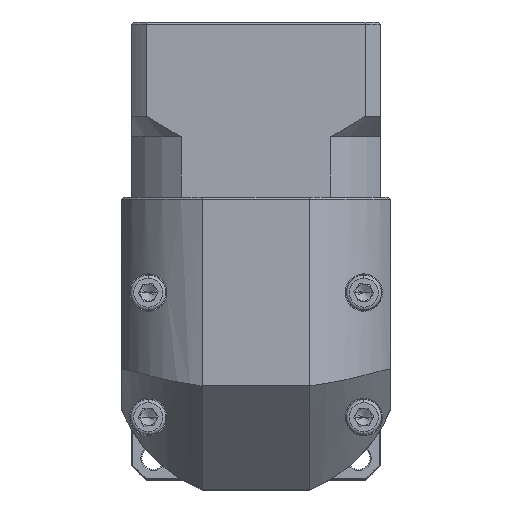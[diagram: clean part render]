
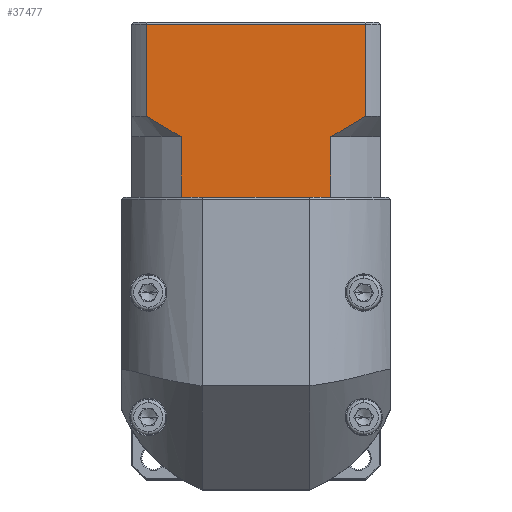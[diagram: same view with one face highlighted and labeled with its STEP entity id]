
A CAD part, top view. The second image highlights one B-rep face of the part: STEP entity #37477.
In plain terms, the highlighted planar face has unit normal (0, 0, 1).
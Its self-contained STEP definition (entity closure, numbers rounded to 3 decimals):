
#300 = CARTESIAN_POINT ( 'NONE',  ( -81.686, 57.193, 65.811 ) ) ;
#1243 = LINE ( 'NONE', #33877, #61035 ) ;
#1663 = ORIENTED_EDGE ( 'NONE', *, *, #21370, .T. ) ;
#2389 = VECTOR ( 'NONE', #86340, 1000. ) ;
#3054 = CARTESIAN_POINT ( 'NONE',  ( -45.63, 57.193, 65.811 ) ) ;
#3959 = VERTEX_POINT ( 'NONE', #79536 ) ;
#5873 = EDGE_LOOP ( 'NONE', ( #72316, #1663, #23802, #93904, #54735, #65008, #36381, #35452, #10011, #14562 ) ) ;
#7337 = LINE ( 'NONE', #99785, #102395 ) ;
#10011 = ORIENTED_EDGE ( 'NONE', *, *, #13819, .F. ) ;
#11144 = CARTESIAN_POINT ( 'NONE',  ( -83.138, 72.441, 65.811 ) ) ;
#13605 = EDGE_CURVE ( 'NONE', #71027, #92747, #37225, .T. ) ;
#13819 = EDGE_CURVE ( 'NONE', #3959, #53091, #1243, .T. ) ;
#14562 = ORIENTED_EDGE ( 'NONE', *, *, #43336, .T. ) ;
#16381 = VERTEX_POINT ( 'NONE', #83311 ) ;
#16854 = DIRECTION ( 'NONE',  ( 0., -1., 0. ) ) ;
#17138 = CARTESIAN_POINT ( 'NONE',  ( -80.695, 57.193, 65.811 ) ) ;
#19141 = CARTESIAN_POINT ( 'NONE',  ( -84.569, 73.244, 65.811 ) ) ;
#19339 = VERTEX_POINT ( 'NONE', #36839 ) ;
#21370 = EDGE_CURVE ( 'NONE', #19339, #16381, #72103, .T. ) ;
#23363 = DIRECTION ( 'NONE',  ( -1., 0., 0. ) ) ;
#23802 = ORIENTED_EDGE ( 'NONE', *, *, #84971, .F. ) ;
#27847 = CARTESIAN_POINT ( 'NONE',  ( -87.377, 74.92, 65.811 ) ) ;
#28315 = CARTESIAN_POINT ( 'NONE',  ( -93.658, 57.193, 65.811 ) ) ;
#28530 = DIRECTION ( 'NONE',  ( 0., 1., 0. ) ) ;
#29688 = CARTESIAN_POINT ( 'NONE',  ( -37.2, 71.693, 65.811 ) ) ;
#30896 = VERTEX_POINT ( 'NONE', #46083 ) ;
#31138 = CARTESIAN_POINT ( 'NONE',  ( -46.621, 57.193, 65.811 ) ) ;
#33877 = CARTESIAN_POINT ( 'NONE',  ( -45.63, 71.693, 65.811 ) ) ;
#34186 = VECTOR ( 'NONE', #23363, 1000. ) ;
#35452 = ORIENTED_EDGE ( 'NONE', *, *, #53098, .T. ) ;
#36381 = ORIENTED_EDGE ( 'NONE', *, *, #77992, .T. ) ;
#36839 = CARTESIAN_POINT ( 'NONE',  ( -37.2, 98.893, 65.811 ) ) ;
#37225 = B_SPLINE_CURVE_WITH_KNOTS ( 'NONE', 3,
 ( #62362, #71416, #27847, #19141, #11144, #53618 ),
 .UNSPECIFIED., .F., .F.,
 ( 4, 2, 4 ),
 ( 0.052, 0.057, 0.062 ),
 .UNSPECIFIED. ) ;
#37477 = ADVANCED_FACE ( 'NONE', ( #63903 ), #48874, .F. ) ;
#37798 = DIRECTION ( 'NONE',  ( 1., 0., 0. ) ) ;
#38623 = CARTESIAN_POINT ( 'NONE',  ( -90.116, 71.693, 65.811 ) ) ;
#41968 = CARTESIAN_POINT ( 'NONE',  ( -93.658, 98.893, 65.811 ) ) ;
#43336 = EDGE_CURVE ( 'NONE', #3959, #30896, #56487, .T. ) ;
#45225 = CARTESIAN_POINT ( 'NONE',  ( -81.686, 71.693, 65.811 ) ) ;
#46083 = CARTESIAN_POINT ( 'NONE',  ( -37.2, 76.693, 65.811 ) ) ;
#46391 = DIRECTION ( 'NONE',  ( 0., -1., 0. ) ) ;
#47758 = DIRECTION ( 'NONE',  ( 0., 0., -1. ) ) ;
#48742 = VECTOR ( 'NONE', #63635, 1000. ) ;
#48874 = PLANE ( 'NONE',  #57968 ) ;
#49262 = DIRECTION ( 'NONE',  ( 1., 0., 0. ) ) ;
#51597 = EDGE_CURVE ( 'NONE', #88621, #77473, #97411, .T. ) ;
#53091 = VERTEX_POINT ( 'NONE', #3054 ) ;
#53098 = EDGE_CURVE ( 'NONE', #86924, #53091, #7337, .T. ) ;
#53618 = CARTESIAN_POINT ( 'NONE',  ( -81.686, 71.693, 65.811 ) ) ;
#54735 = ORIENTED_EDGE ( 'NONE', *, *, #94075, .F. ) ;
#55860 = VECTOR ( 'NONE', #28530, 1000. ) ;
#56487 = B_SPLINE_CURVE_WITH_KNOTS ( 'NONE', 3,
 ( #57350, #66384, #67124, #93013, #66021, #75840 ),
 .UNSPECIFIED., .F., .F.,
 ( 4, 2, 4 ),
 ( 0.1, 0.104, 0.109 ),
 .UNSPECIFIED. ) ;
#57066 = LINE ( 'NONE', #28315, #86872 ) ;
#57350 = CARTESIAN_POINT ( 'NONE',  ( -45.63, 71.693, 65.811 ) ) ;
#57968 = AXIS2_PLACEMENT_3D ( 'NONE', #101287, #47758, #92201 ) ;
#61035 = VECTOR ( 'NONE', #16854, 1000. ) ;
#61046 = LINE ( 'NONE', #38623, #48742 ) ;
#62362 = CARTESIAN_POINT ( 'NONE',  ( -90.116, 76.693, 65.811 ) ) ;
#63635 = DIRECTION ( 'NONE',  ( 0., 1., 0. ) ) ;
#63903 = FACE_OUTER_BOUND ( 'NONE', #5873, .T. ) ;
#65008 = ORIENTED_EDGE ( 'NONE', *, *, #51597, .T. ) ;
#66021 = CARTESIAN_POINT ( 'NONE',  ( -38.563, 75.791, 65.811 ) ) ;
#66384 = CARTESIAN_POINT ( 'NONE',  ( -44.174, 72.443, 65.811 ) ) ;
#67124 = CARTESIAN_POINT ( 'NONE',  ( -42.748, 73.243, 65.811 ) ) ;
#68332 = VECTOR ( 'NONE', #46391, 1000. ) ;
#69534 = CARTESIAN_POINT ( 'NONE',  ( -81.686, 71.693, 65.811 ) ) ;
#71027 = VERTEX_POINT ( 'NONE', #85666 ) ;
#71416 = CARTESIAN_POINT ( 'NONE',  ( -88.756, 75.793, 65.811 ) ) ;
#72103 = LINE ( 'NONE', #41968, #34186 ) ;
#72316 = ORIENTED_EDGE ( 'NONE', *, *, #92911, .F. ) ;
#75840 = CARTESIAN_POINT ( 'NONE',  ( -37.2, 76.693, 65.811 ) ) ;
#76468 = LINE ( 'NONE', #29688, #68332 ) ;
#77473 = VERTEX_POINT ( 'NONE', #17138 ) ;
#77992 = EDGE_CURVE ( 'NONE', #77473, #86924, #57066, .T. ) ;
#79536 = CARTESIAN_POINT ( 'NONE',  ( -45.63, 71.693, 65.811 ) ) ;
#83311 = CARTESIAN_POINT ( 'NONE',  ( -90.116, 98.893, 65.811 ) ) ;
#84971 = EDGE_CURVE ( 'NONE', #71027, #16381, #61046, .T. ) ;
#85666 = CARTESIAN_POINT ( 'NONE',  ( -90.116, 76.693, 65.811 ) ) ;
#86340 = DIRECTION ( 'NONE',  ( 1., 0., 0. ) ) ;
#86872 = VECTOR ( 'NONE', #37798, 1000. ) ;
#86924 = VERTEX_POINT ( 'NONE', #31138 ) ;
#88621 = VERTEX_POINT ( 'NONE', #300 ) ;
#89818 = LINE ( 'NONE', #45225, #55860 ) ;
#92201 = DIRECTION ( 'NONE',  ( 0., 1., 0. ) ) ;
#92747 = VERTEX_POINT ( 'NONE', #69534 ) ;
#92911 = EDGE_CURVE ( 'NONE', #19339, #30896, #76468, .T. ) ;
#93013 = CARTESIAN_POINT ( 'NONE',  ( -39.943, 74.918, 65.811 ) ) ;
#93904 = ORIENTED_EDGE ( 'NONE', *, *, #13605, .T. ) ;
#94075 = EDGE_CURVE ( 'NONE', #88621, #92747, #89818, .T. ) ;
#97411 = LINE ( 'NONE', #112657, #2389 ) ;
#99785 = CARTESIAN_POINT ( 'NONE',  ( -93.658, 57.193, 65.811 ) ) ;
#101287 = CARTESIAN_POINT ( 'NONE',  ( -93.658, 99.393, 65.811 ) ) ;
#102395 = VECTOR ( 'NONE', #49262, 1000. ) ;
#112657 = CARTESIAN_POINT ( 'NONE',  ( -93.658, 57.193, 65.811 ) ) ;
